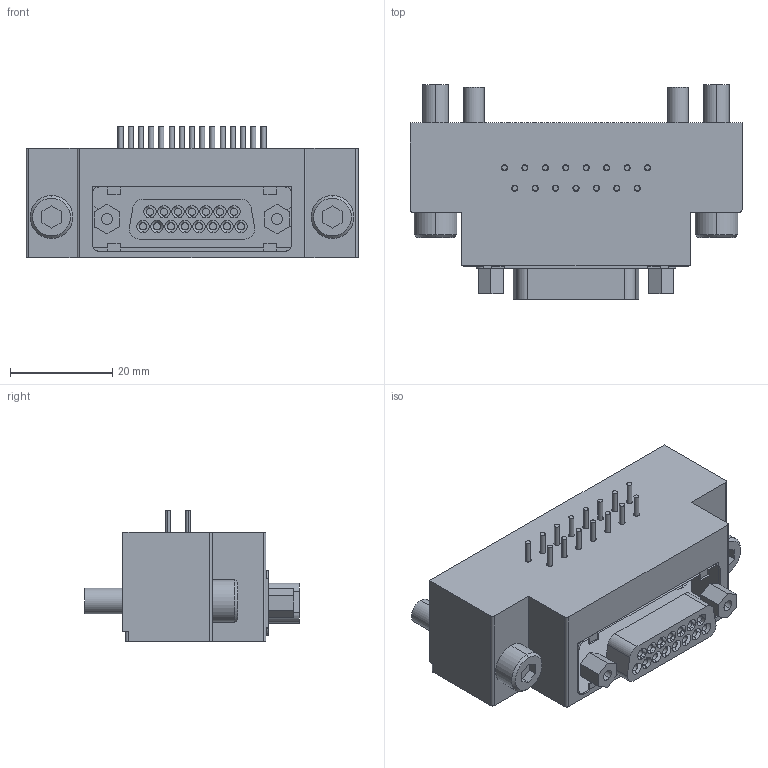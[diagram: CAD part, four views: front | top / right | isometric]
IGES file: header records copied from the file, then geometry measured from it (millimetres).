
Start section: 3D InterOp IGES (v. 2022 1.0.0), Spatial Corp. Copyright (c) 1999-2020.
Global section: file name: KHB-45~300HS-D515C_ver1.igs; native system: Spatial Corp.; preprocessor: 3D InterOp GENERIC/IGES 3.0; author: Noname; organization: Noname; date: 20260427.165451; units: millimetre
Bounding box: 65 x 42.04 x 25.8 mm (x, y, z)
Surface area: 11706.9 mm2 (no closed solid volume)
Topology: 0 solids, 0 shells, 456 faces, 2034 edges, 2034 vertices
Faces by surface type: extrusion 229, revolution 227
